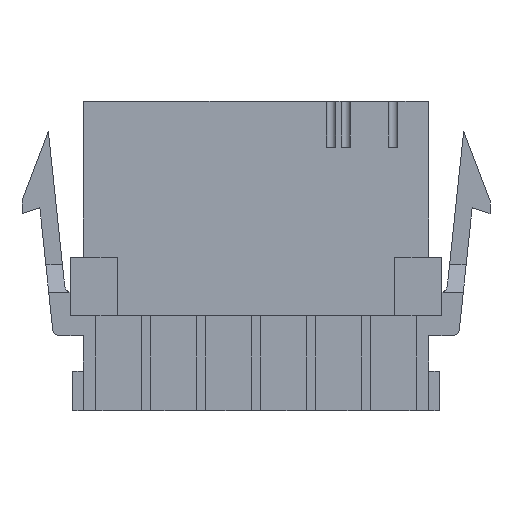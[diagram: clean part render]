
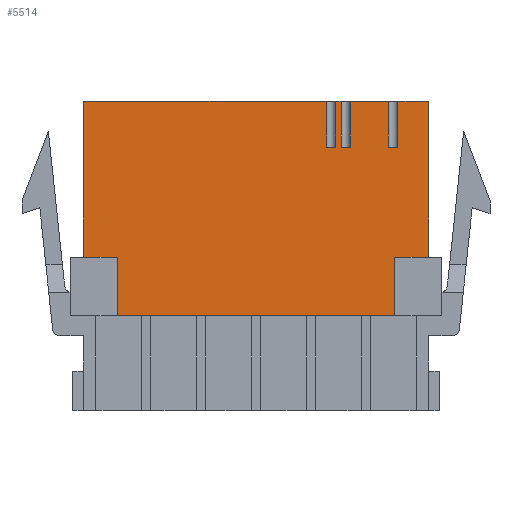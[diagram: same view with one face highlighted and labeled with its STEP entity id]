
A CAD part, front view. The second image highlights one B-rep face of the part: STEP entity #5514.
In plain terms, the highlighted planar face has unit normal (0, -1, 0).
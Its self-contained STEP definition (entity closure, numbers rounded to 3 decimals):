
#1=DIRECTION('',(-1.,0.,0.));
#2=VECTOR('',#1,2.1);
#3=CARTESIAN_POINT('',(7.25,-3.425,0.));
#4=LINE('',#3,#2);
#10=DIRECTION('',(-1.,0.,0.));
#11=VECTOR('',#10,0.3);
#12=CARTESIAN_POINT('',(4.65,-3.425,0.));
#13=LINE('',#12,#11);
#19=DIRECTION('',(-1.,0.,0.));
#20=VECTOR('',#19,13.275);
#21=CARTESIAN_POINT('',(3.85,-3.425,0.));
#22=LINE('',#21,#20);
#35=DIRECTION('',(-1.,0.,0.));
#36=VECTOR('',#35,1.675);
#37=CARTESIAN_POINT('',(9.425,-3.425,0.));
#38=LINE('',#37,#36);
#280=DIRECTION('',(0.,0.,-1.));
#281=VECTOR('',#280,3.19);
#282=CARTESIAN_POINT('',(-7.585,-3.425,-8.51));
#283=LINE('',#282,#281);
#284=DIRECTION('',(1.,0.,0.));
#285=VECTOR('',#284,1.84);
#286=CARTESIAN_POINT('',(-9.425,-3.425,-8.51));
#287=LINE('',#286,#285);
#288=DIRECTION('',(0.,0.,1.));
#289=VECTOR('',#288,2.5);
#290=CARTESIAN_POINT('',(3.85,-3.425,-2.5));
#291=LINE('',#290,#289);
#292=DIRECTION('',(1.,0.,0.));
#293=VECTOR('',#292,0.5);
#294=CARTESIAN_POINT('',(3.85,-3.425,-2.5));
#295=LINE('',#294,#293);
#296=DIRECTION('',(0.,0.,1.));
#297=VECTOR('',#296,2.5);
#298=CARTESIAN_POINT('',(4.35,-3.425,-2.5));
#299=LINE('',#298,#297);
#300=DIRECTION('',(0.,0.,1.));
#301=VECTOR('',#300,2.5);
#302=CARTESIAN_POINT('',(4.65,-3.425,-2.5));
#303=LINE('',#302,#301);
#304=DIRECTION('',(1.,0.,0.));
#305=VECTOR('',#304,0.5);
#306=CARTESIAN_POINT('',(4.65,-3.425,-2.5));
#307=LINE('',#306,#305);
#308=DIRECTION('',(0.,0.,1.));
#309=VECTOR('',#308,2.5);
#310=CARTESIAN_POINT('',(5.15,-3.425,-2.5));
#311=LINE('',#310,#309);
#312=DIRECTION('',(0.,0.,1.));
#313=VECTOR('',#312,2.5);
#314=CARTESIAN_POINT('',(7.25,-3.425,-2.5));
#315=LINE('',#314,#313);
#316=DIRECTION('',(-1.,0.,0.));
#317=VECTOR('',#316,0.5);
#318=CARTESIAN_POINT('',(7.75,-3.425,-2.5));
#319=LINE('',#318,#317);
#320=DIRECTION('',(0.,0.,1.));
#321=VECTOR('',#320,2.5);
#322=CARTESIAN_POINT('',(7.75,-3.425,-2.5));
#323=LINE('',#322,#321);
#324=DIRECTION('',(0.,0.,-1.));
#325=VECTOR('',#324,8.51);
#326=CARTESIAN_POINT('',(9.425,-3.425,0.));
#327=LINE('',#326,#325);
#328=DIRECTION('',(1.,0.,0.));
#329=VECTOR('',#328,1.84);
#330=CARTESIAN_POINT('',(7.585,-3.425,-8.51));
#331=LINE('',#330,#329);
#332=DIRECTION('',(0.,0.,-1.));
#333=VECTOR('',#332,3.19);
#334=CARTESIAN_POINT('',(7.585,-3.425,-8.51));
#335=LINE('',#334,#333);
#724=DIRECTION('',(1.,0.,0.));
#725=VECTOR('',#724,15.17);
#726=CARTESIAN_POINT('',(-7.585,-3.425,-11.7));
#727=LINE('',#726,#725);
#3608=DIRECTION('',(0.,0.,-1.));
#3609=VECTOR('',#3608,8.51);
#3610=CARTESIAN_POINT('',(-9.425,-3.425,0.));
#3611=LINE('',#3610,#3609);
#3987=CARTESIAN_POINT('',(-9.425,-3.425,0.));
#3989=VERTEX_POINT('',#3987);
#3993=CARTESIAN_POINT('',(9.425,-3.425,0.));
#3994=VERTEX_POINT('',#3993);
#4059=CARTESIAN_POINT('',(7.585,-3.425,-8.51));
#4060=CARTESIAN_POINT('',(9.425,-3.425,-8.51));
#4061=VERTEX_POINT('',#4059);
#4062=VERTEX_POINT('',#4060);
#4063=CARTESIAN_POINT('',(-9.425,-3.425,-8.51));
#4064=CARTESIAN_POINT('',(-7.585,-3.425,-8.51));
#4065=VERTEX_POINT('',#4063);
#4066=VERTEX_POINT('',#4064);
#4107=CARTESIAN_POINT('',(7.75,-3.425,-2.5));
#4108=CARTESIAN_POINT('',(7.25,-3.425,-2.5));
#4109=VERTEX_POINT('',#4107);
#4110=VERTEX_POINT('',#4108);
#4111=CARTESIAN_POINT('',(7.75,-3.425,0.));
#4112=VERTEX_POINT('',#4111);
#4113=CARTESIAN_POINT('',(7.25,-3.425,0.));
#4114=CARTESIAN_POINT('',(5.15,-3.425,0.));
#4115=VERTEX_POINT('',#4113);
#4116=VERTEX_POINT('',#4114);
#4117=CARTESIAN_POINT('',(4.65,-3.425,0.));
#4118=CARTESIAN_POINT('',(4.35,-3.425,0.));
#4119=VERTEX_POINT('',#4117);
#4120=VERTEX_POINT('',#4118);
#4121=CARTESIAN_POINT('',(3.85,-3.425,0.));
#4122=VERTEX_POINT('',#4121);
#4123=CARTESIAN_POINT('',(3.85,-3.425,-2.5));
#4124=CARTESIAN_POINT('',(4.35,-3.425,-2.5));
#4125=VERTEX_POINT('',#4123);
#4126=VERTEX_POINT('',#4124);
#4127=CARTESIAN_POINT('',(4.65,-3.425,-2.5));
#4128=CARTESIAN_POINT('',(5.15,-3.425,-2.5));
#4129=VERTEX_POINT('',#4127);
#4130=VERTEX_POINT('',#4128);
#4147=CARTESIAN_POINT('',(7.585,-3.425,-11.7));
#4148=VERTEX_POINT('',#4147);
#4485=CARTESIAN_POINT('',(-7.585,-3.425,-11.7));
#4486=VERTEX_POINT('',#4485);
#5471=CARTESIAN_POINT('',(9.425,-3.425,0.));
#5472=DIRECTION('',(0.,-1.,0.));
#5473=DIRECTION('',(-1.,0.,0.));
#5474=AXIS2_PLACEMENT_3D('',#5471,#5472,#5473);
#5475=PLANE('',#5474);
#5477=ORIENTED_EDGE('',*,*,#5476,.F.);
#5479=ORIENTED_EDGE('',*,*,#5478,.F.);
#5481=ORIENTED_EDGE('',*,*,#5480,.F.);
#5483=ORIENTED_EDGE('',*,*,#5482,.F.);
#5484=ORIENTED_EDGE('',*,*,#5314,.F.);
#5486=ORIENTED_EDGE('',*,*,#5485,.F.);
#5488=ORIENTED_EDGE('',*,*,#5487,.T.);
#5490=ORIENTED_EDGE('',*,*,#5489,.T.);
#5491=ORIENTED_EDGE('',*,*,#5310,.F.);
#5493=ORIENTED_EDGE('',*,*,#5492,.F.);
#5495=ORIENTED_EDGE('',*,*,#5494,.T.);
#5497=ORIENTED_EDGE('',*,*,#5496,.T.);
#5498=ORIENTED_EDGE('',*,*,#5306,.F.);
#5500=ORIENTED_EDGE('',*,*,#5499,.F.);
#5502=ORIENTED_EDGE('',*,*,#5501,.F.);
#5504=ORIENTED_EDGE('',*,*,#5503,.T.);
#5505=ORIENTED_EDGE('',*,*,#5322,.F.);
#5507=ORIENTED_EDGE('',*,*,#5506,.T.);
#5509=ORIENTED_EDGE('',*,*,#5508,.F.);
#5511=ORIENTED_EDGE('',*,*,#5510,.T.);
#5512=EDGE_LOOP('',(#5477,#5479,#5481,#5483,#5484,#5486,#5488,#5490,#5491,#5493,
#5495,#5497,#5498,#5500,#5502,#5504,#5505,#5507,#5509,#5511));
#5513=FACE_OUTER_BOUND('',#5512,.F.);
#5514=ADVANCED_FACE('',(#5513),#5475,.T.);
#5306=EDGE_CURVE('',#4115,#4116,#4,.T.);
#5310=EDGE_CURVE('',#4119,#4120,#13,.T.);
#5314=EDGE_CURVE('',#4122,#3989,#22,.T.);
#5322=EDGE_CURVE('',#3994,#4112,#38,.T.);
#5476=EDGE_CURVE('',#4486,#4148,#727,.T.);
#5478=EDGE_CURVE('',#4066,#4486,#283,.T.);
#5480=EDGE_CURVE('',#4065,#4066,#287,.T.);
#5482=EDGE_CURVE('',#3989,#4065,#3611,.T.);
#5485=EDGE_CURVE('',#4125,#4122,#291,.T.);
#5487=EDGE_CURVE('',#4125,#4126,#295,.T.);
#5489=EDGE_CURVE('',#4126,#4120,#299,.T.);
#5492=EDGE_CURVE('',#4129,#4119,#303,.T.);
#5494=EDGE_CURVE('',#4129,#4130,#307,.T.);
#5496=EDGE_CURVE('',#4130,#4116,#311,.T.);
#5499=EDGE_CURVE('',#4110,#4115,#315,.T.);
#5501=EDGE_CURVE('',#4109,#4110,#319,.T.);
#5503=EDGE_CURVE('',#4109,#4112,#323,.T.);
#5506=EDGE_CURVE('',#3994,#4062,#327,.T.);
#5508=EDGE_CURVE('',#4061,#4062,#331,.T.);
#5510=EDGE_CURVE('',#4061,#4148,#335,.T.);
